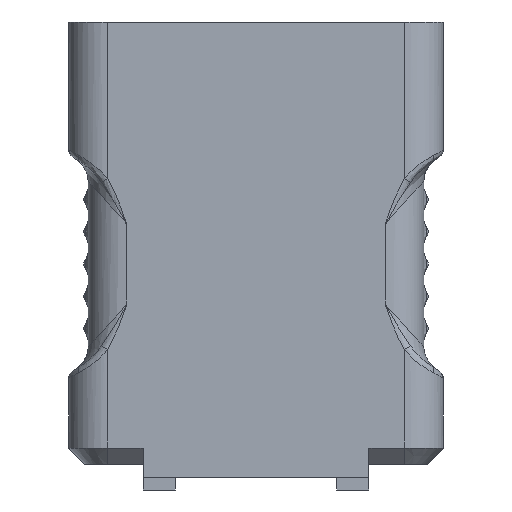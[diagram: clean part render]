
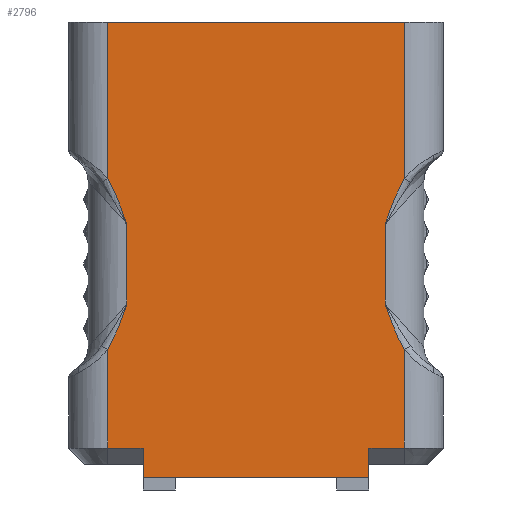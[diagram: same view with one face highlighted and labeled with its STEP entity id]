
A CAD part, left-side view. The second image highlights one B-rep face of the part: STEP entity #2796.
In plain terms, the highlighted planar face has unit normal (-1, 0, 0).
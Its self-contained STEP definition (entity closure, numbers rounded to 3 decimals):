
#25=DIRECTION('',(0.,-1.,0.));
#26=VECTOR('',#25,35.);
#27=CARTESIAN_POINT('',(-3.,-2.2,-68.));
#28=LINE('',#27,#26);
#69=DIRECTION('',(0.,0.,1.));
#70=VECTOR('',#69,4.5);
#71=CARTESIAN_POINT('',(-3.,-37.2,-68.));
#72=LINE('',#71,#70);
#81=DIRECTION('',(0.,1.,0.));
#82=VECTOR('',#81,5.5);
#83=CARTESIAN_POINT('',(-3.,-2.2,-63.5));
#84=LINE('',#83,#82);
#85=CARTESIAN_POINT('',(-3.,3.3,-48.219));
#86=CARTESIAN_POINT('',(-3.,3.045,-47.803));
#87=CARTESIAN_POINT('',(-3.,2.599,-46.988));
#88=CARTESIAN_POINT('',(-3.,2.073,-45.864));
#89=CARTESIAN_POINT('',(-3.,1.636,-44.823));
#90=CARTESIAN_POINT('',(-3.,1.262,-43.862));
#91=CARTESIAN_POINT('',(-3.,0.941,-42.994));
#92=CARTESIAN_POINT('',(-3.,0.637,-42.146));
#93=CARTESIAN_POINT('',(-3.,0.414,-41.516));
#94=CARTESIAN_POINT('',(-3.,0.3,-41.193));
#96=DIRECTION('',(0.,0.,-1.));
#97=VECTOR('',#96,12.385);
#98=CARTESIAN_POINT('',(-3.,0.3,-28.807));
#99=LINE('',#98,#97);
#100=CARTESIAN_POINT('',(-3.,0.3,
-28.807));
#101=CARTESIAN_POINT('',(-3.,0.399,
-28.527));
#102=CARTESIAN_POINT('',(-3.,0.6,
-27.958));
#103=CARTESIAN_POINT('',(-3.,0.897,
-27.128));
#104=CARTESIAN_POINT('',(-3.,1.24,-26.197));
#105=CARTESIAN_POINT('',(-3.,1.628,-25.197));
#106=CARTESIAN_POINT('',(-3.,2.087,-24.103));
#107=CARTESIAN_POINT('',(-3.,2.632,-22.947));
#108=CARTESIAN_POINT('',(-3.,3.062,-22.169));
#109=CARTESIAN_POINT('',(-3.,3.3,-21.781));
#111=CARTESIAN_POINT('',(-3.,-42.7,-21.781));
#112=CARTESIAN_POINT('',(-3.,-42.445,-22.196));
#113=CARTESIAN_POINT('',(-3.,-42.,
-23.01));
#114=CARTESIAN_POINT('',(-3.,-41.474,
-24.134));
#115=CARTESIAN_POINT('',(-3.,-41.037,
-25.175));
#116=CARTESIAN_POINT('',(-3.,-40.664,
-26.135));
#117=CARTESIAN_POINT('',(-3.,-40.343,
-27.002));
#118=CARTESIAN_POINT('',(-3.,-40.037,
-27.853));
#119=CARTESIAN_POINT('',(-3.,-39.814,
-28.483));
#120=CARTESIAN_POINT('',(-3.,-39.7,-28.807));
#122=DIRECTION('',(0.,0.,1.));
#123=VECTOR('',#122,12.385);
#124=CARTESIAN_POINT('',(-3.,-39.7,
-41.193));
#125=LINE('',#124,#123);
#126=CARTESIAN_POINT('',(-3.,-39.7,
-41.193));
#127=CARTESIAN_POINT('',(-3.,-39.798,
-41.471));
#128=CARTESIAN_POINT('',(-3.,-39.997,
-42.034));
#129=CARTESIAN_POINT('',(-3.,-40.291,
-42.856));
#130=CARTESIAN_POINT('',(-3.,-40.629,
-43.773));
#131=CARTESIAN_POINT('',(-3.,-41.011,
-44.762));
#132=CARTESIAN_POINT('',(-3.,-41.46,
-45.835));
#133=CARTESIAN_POINT('',(-3.,-41.999,
-46.989));
#134=CARTESIAN_POINT('',(-3.,-42.446,-47.805));
#135=CARTESIAN_POINT('',(-3.,-42.7,-48.219));
#137=DIRECTION('',(0.,-1.,0.));
#138=VECTOR('',#137,5.5);
#139=CARTESIAN_POINT('',(-3.,-37.2,-63.5));
#140=LINE('',#139,#138);
#269=DIRECTION('',(0.,0.,-1.));
#270=VECTOR('',#269,24.281);
#271=CARTESIAN_POINT('',(-3.,3.3,2.5));
#272=LINE('',#271,#270);
#273=CARTESIAN_POINT('',(-3.,3.3,-21.781));
#322=DIRECTION('',(0.,-1.,0.));
#323=VECTOR('',#322,46.);
#324=CARTESIAN_POINT('',(-3.,3.3,2.5));
#325=LINE('',#324,#323);
#418=CARTESIAN_POINT('',(-3.,0.3,
-28.807));
#528=DIRECTION('',(0.,0.,-1.));
#529=VECTOR('',#528,15.281);
#530=CARTESIAN_POINT('',(-3.,3.3,-48.219));
#531=LINE('',#530,#529);
#700=DIRECTION('',(0.,0.,-1.));
#701=VECTOR('',#700,4.5);
#702=CARTESIAN_POINT('',(-3.,-2.2,-63.5));
#703=LINE('',#702,#701);
#1179=DIRECTION('',(0.,0.,1.));
#1180=VECTOR('',#1179,15.281);
#1181=CARTESIAN_POINT('',(-3.,-42.7,
-63.5));
#1182=LINE('',#1181,#1180);
#1183=CARTESIAN_POINT('',(-3.,-42.7,-48.219));
#1236=CARTESIAN_POINT('',(-3.,-39.7,
-41.193));
#1341=DIRECTION('',(0.,0.,1.));
#1342=VECTOR('',#1341,24.281);
#1343=CARTESIAN_POINT('',(-3.,-42.7,-21.781));
#1344=LINE('',#1343,#1342);
#2297=VERTEX_POINT('',#273);
#2298=VERTEX_POINT('',#418);
#2299=VERTEX_POINT('',#111);
#2300=VERTEX_POINT('',#120);
#2309=VERTEX_POINT('',#1183);
#2310=VERTEX_POINT('',#1236);
#2311=VERTEX_POINT('',#85);
#2312=VERTEX_POINT('',#94);
#2583=CARTESIAN_POINT('',(-3.,-2.2,-68.));
#2584=VERTEX_POINT('',#2583);
#2587=CARTESIAN_POINT('',(-3.,-37.2,-68.));
#2588=VERTEX_POINT('',#2587);
#2598=CARTESIAN_POINT('',(-3.,3.3,2.5));
#2600=VERTEX_POINT('',#2598);
#2609=CARTESIAN_POINT('',(-3.,-42.7,2.5));
#2611=VERTEX_POINT('',#2609);
#2623=CARTESIAN_POINT('',(-3.,3.3,-63.5));
#2624=VERTEX_POINT('',#2623);
#2627=CARTESIAN_POINT('',(-3.,-2.2,-63.5));
#2628=VERTEX_POINT('',#2627);
#2645=CARTESIAN_POINT('',(-3.,-42.7,-63.5));
#2646=VERTEX_POINT('',#2645);
#2649=CARTESIAN_POINT('',(-3.,-37.2,-63.5));
#2650=VERTEX_POINT('',#2649);
#2759=CARTESIAN_POINT('',(-3.,9.3,2.));
#2760=DIRECTION('',(-1.,0.,0.));
#2761=DIRECTION('',(0.,-1.,0.));
#2762=AXIS2_PLACEMENT_3D('',#2759,#2760,#2761);
#2763=PLANE('',#2762);
#2765=ORIENTED_EDGE('',*,*,#2764,.T.);
#2767=ORIENTED_EDGE('',*,*,#2766,.F.);
#2769=ORIENTED_EDGE('',*,*,#2768,.T.);
#2771=ORIENTED_EDGE('',*,*,#2770,.F.);
#2773=ORIENTED_EDGE('',*,*,#2772,.T.);
#2775=ORIENTED_EDGE('',*,*,#2774,.F.);
#2777=ORIENTED_EDGE('',*,*,#2776,.T.);
#2779=ORIENTED_EDGE('',*,*,#2778,.F.);
#2781=ORIENTED_EDGE('',*,*,#2780,.T.);
#2783=ORIENTED_EDGE('',*,*,#2782,.F.);
#2785=ORIENTED_EDGE('',*,*,#2784,.T.);
#2787=ORIENTED_EDGE('',*,*,#2786,.F.);
#2789=ORIENTED_EDGE('',*,*,#2788,.F.);
#2790=ORIENTED_EDGE('',*,*,#2723,.F.);
#2791=ORIENTED_EDGE('',*,*,#2670,.F.);
#2793=ORIENTED_EDGE('',*,*,#2792,.F.);
#2794=EDGE_LOOP('',(#2765,#2767,#2769,#2771,#2773,#2775,#2777,#2779,#2781,#2783,
#2785,#2787,#2789,#2790,#2791,#2793));
#2795=FACE_OUTER_BOUND('',#2794,.F.);
#2796=ADVANCED_FACE('',(#2795),#2763,.T.);
#95=B_SPLINE_CURVE_WITH_KNOTS('',3,(#85,#86,#87,#88,#89,#90,#91,#92,#93,#94),
.UNSPECIFIED.,.F.,.F.,(4,1,1,1,1,1,1,4),(0.,0.143,
0.286,0.429,0.571,0.714,
0.857,1.),.UNSPECIFIED.);
#110=B_SPLINE_CURVE_WITH_KNOTS('',3,(#100,#101,#102,#103,#104,#105,#106,#107,
#108,#109),.UNSPECIFIED.,.F.,.F.,(4,1,1,1,1,1,1,4),(0.,0.143,
0.286,0.429,0.571,0.714,
0.857,1.),.UNSPECIFIED.);
#121=B_SPLINE_CURVE_WITH_KNOTS('',3,(#111,#112,#113,#114,#115,#116,#117,#118,
#119,#120),.UNSPECIFIED.,.F.,.F.,(4,1,1,1,1,1,1,4),(0.,0.143,
0.286,0.429,0.571,0.714,
0.857,1.),.UNSPECIFIED.);
#136=B_SPLINE_CURVE_WITH_KNOTS('',3,(#126,#127,#128,#129,#130,#131,#132,#133,
#134,#135),.UNSPECIFIED.,.F.,.F.,(4,1,1,1,1,1,1,4),(0.,0.143,
0.286,0.429,0.571,0.714,
0.857,1.),.UNSPECIFIED.);
#2670=EDGE_CURVE('',#2584,#2588,#28,.T.);
#2723=EDGE_CURVE('',#2588,#2650,#72,.T.);
#2764=EDGE_CURVE('',#2628,#2624,#84,.T.);
#2766=EDGE_CURVE('',#2311,#2624,#531,.T.);
#2768=EDGE_CURVE('',#2311,#2312,#95,.T.);
#2770=EDGE_CURVE('',#2298,#2312,#99,.T.);
#2772=EDGE_CURVE('',#2298,#2297,#110,.T.);
#2774=EDGE_CURVE('',#2600,#2297,#272,.T.);
#2776=EDGE_CURVE('',#2600,#2611,#325,.T.);
#2778=EDGE_CURVE('',#2299,#2611,#1344,.T.);
#2780=EDGE_CURVE('',#2299,#2300,#121,.T.);
#2782=EDGE_CURVE('',#2310,#2300,#125,.T.);
#2784=EDGE_CURVE('',#2310,#2309,#136,.T.);
#2786=EDGE_CURVE('',#2646,#2309,#1182,.T.);
#2788=EDGE_CURVE('',#2650,#2646,#140,.T.);
#2792=EDGE_CURVE('',#2628,#2584,#703,.T.);
